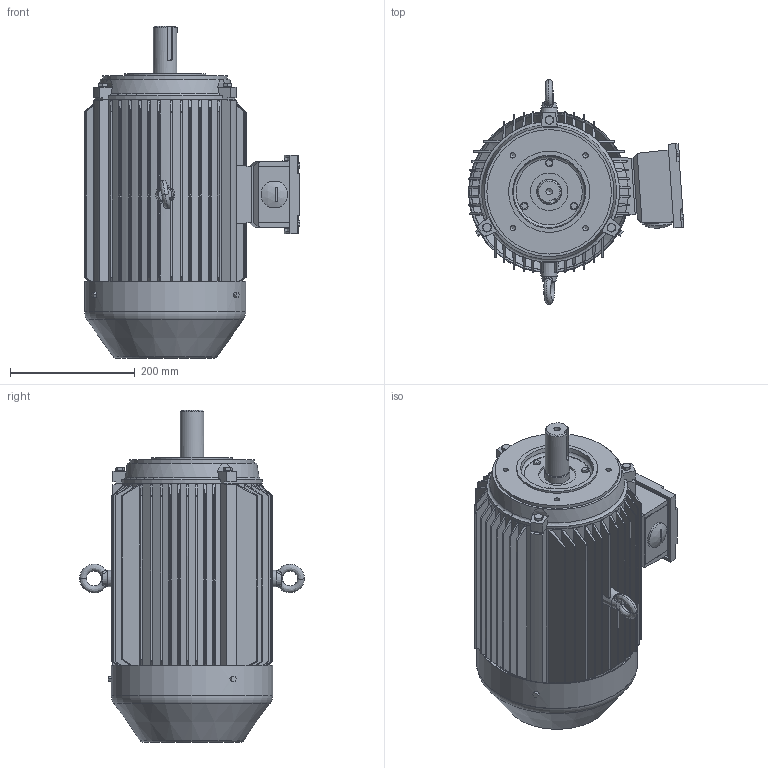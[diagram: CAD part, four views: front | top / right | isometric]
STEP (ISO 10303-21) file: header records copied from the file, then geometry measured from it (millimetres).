
FILE_DESCRIPTION(/* description */ (''),/* implementation_level */ '2;1');
FILE_NAME(/* name */ 'C:/Users/luigi_zhang/Desktop/temp/TE3-132M V18.step',/* time_stamp */ '2020-07-01T16:18:09+10:00',/* author */ (''),/* organization */ (''),/* preprocessor_version */ 'ST-DEVELOPER v18.1',/* originating_system */ 'Autodesk Translation Framework v9.3.0.1241',/* authorisation */ '');
FILE_SCHEMA (('AUTOMOTIVE_DESIGN { 1 0 10303 214 3 1 1 }'));
Products named in the file (10): (Unsaved); »ú×ùYX3-132M B5; GX132 B14 P24 Í¹Ôµ¶Ë¸Ç
£¨ÖáÉì£©; TE3-132 ·çÕÖ; TE3-132 ÖáÉì; hexagon head bolts--product grade c gb_GB_FASTENER_BOLT_HHBC M8X40-N; TE3-112~132½ÓÏßºÐ; GX132 P24 ½ÓÏßºÐ×ù; GX112~132 P24½ÓÏßºÐ¸Ç; eyebolts gb_GB_FASTENER_SCREWS_FRS M10-N
Assembly tree (12 placements, depth 3):
  (Unsaved)
    »ú×ùYX3-132M B5
    GX132 B14 P24 Í¹Ôµ¶Ë¸Ç
£¨ÖáÉì£©
    TE3-132 ·çÕÖ
    TE3-132 ÖáÉì
    eyebolts gb_GB_FASTENER_SCREWS_FRS M10-N  x2
    hexagon head bolts--product grade c gb_GB_FASTENER_BOLT_HHBC M8X40-N  x3
    TE3-112~132½ÓÏßºÐ
      GX132 P24 ½ÓÏßºÐ×ù
      GX112~132 P24½ÓÏßºÐ¸Ç
Bounding box: 345.83 x 360.2 x 532 mm (x, y, z)
Volume: 16032096.9 mm3; surface area: 1309222.8 mm2
Topology: 12 solids, 12 shells, 1185 faces, 2881 edges, 1904 vertices
Faces by surface type: plane 879, cylinder 125, bspline 97, cone 67, torus 16, sphere 1
Full cylindrical faces by diameter (mm): 5 x8, 8 x7, 8.5 x4, 10 x5, 10.2 x1, 12 x3, 12.669 x1, 23.72 x1, 38 x1, 40 x2, 42.7 x1, 60 x1, 106 x1, 130 x1, 199.5 x1, 215 x1, 256.4 x1, 258.4 x1
Entity records: 51031 total; most frequent: CARTESIAN_POINT 25079, ORIENTED_EDGE 5458, DIRECTION 4738, EDGE_CURVE 2729, LINE 2026, VECTOR 2026, VERTEX_POINT 1813, AXIS2_PLACEMENT_3D 1356
